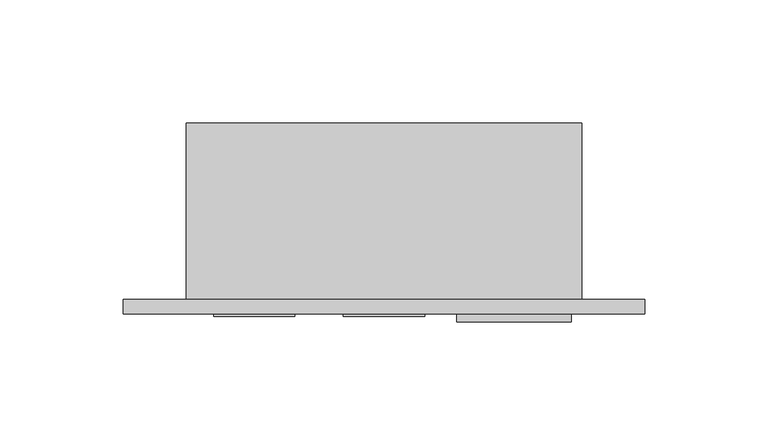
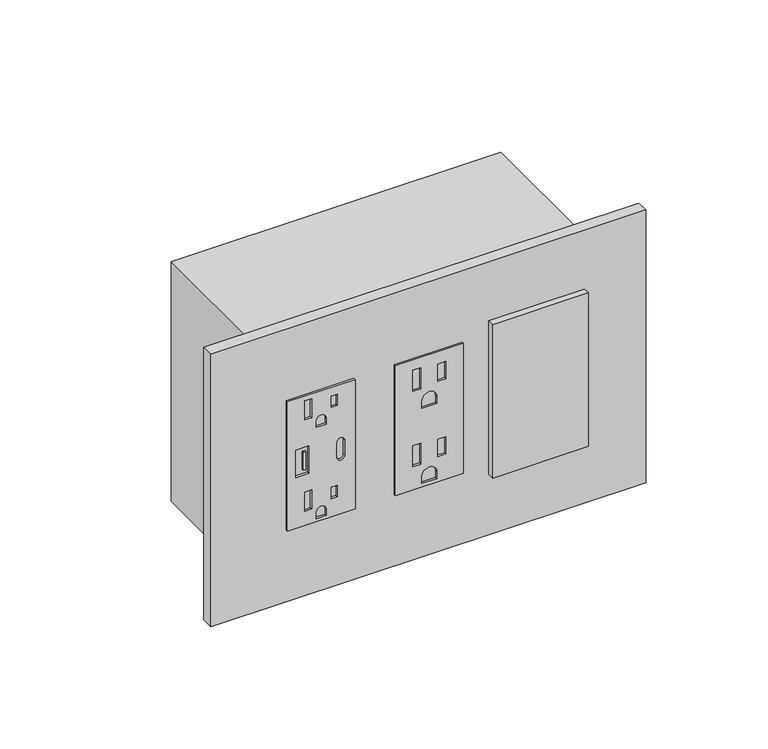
"""IFC4 building model written with IfcOpenShell, lengths in millimetres: proxy geometry, Electrical-Teknion-EPDMT_Vertical_Power_Data_Triple-R2019 : PD Vertical Module - Triple 15 Amp USB (A+C) & 15 Amp Standard."""

from ifc_helpers import new_model, si_unit, point, frame, frame_2d, origin, place, context, project, spatial, polyline, circle_curve, trimmed, segment, composite_curve, outline, extrude, source, transform, mapped, element, save


def electrical_fixtures_cf150507(model_context):
    return source(origin(), model_context, "Body", "SweptSolid", [
        extrude(outline(polyline([(490.474, 44.0944), (490.474, 11.0998), (423.926, 11.0998), (423.926, 44.0944), (490.474, 44.0944)]), holes=[polyline([(488.0356, 22.9616), (478.2080649, 22.9616), (478.2080649, 19.6342), (488.0356, 19.6342), (488.0356, 22.9616)]), polyline([(486.0301324, 35.41014), (480.2135324, 35.41014), (480.2135324, 32.4358), (486.0301324, 32.4358), (486.0301324, 35.41014)]), composite_curve([segment(polyline([(472.44, 30.0609), (472.44, 25.1333), (475.5388, 25.1333)]), True, "CONTINUOUS"), segment(trimmed(circle_curve(frame_2d((475.5388, 27.5971)), 2.4638), [point((475.5388, 25.1333))], [point((475.5388, 30.0609))], True, "CARTESIAN"), True, "CONTINUOUS"), segment(polyline([(475.5388, 30.0609), (472.44, 30.0609)]), True, "CONTINUOUS")], self_intersect=False), polyline([(441.0456, 22.9616), (431.2180649, 22.9616), (431.2180649, 19.6342), (441.0456, 19.6342), (441.0456, 22.9616)]), polyline([(439.0401324, 35.41014), (433.2235324, 35.41014), (433.2235324, 32.4358), (439.0401324, 32.4358), (439.0401324, 35.41014)]), composite_curve([segment(polyline([(425.45, 30.0609), (425.45, 25.1333), (428.5488, 25.1333)]), True, "CONTINUOUS"), segment(trimmed(circle_curve(frame_2d((428.5488, 27.5971)), 2.4638), [point((428.5488, 25.1333))], [point((428.5488, 30.0609))], True, "CARTESIAN"), True, "CONTINUOUS"), segment(polyline([(428.5488, 30.0609), (425.45, 30.0609)]), True, "CONTINUOUS")], self_intersect=False), polyline([(464.2485, 21.59), (450.1515, 21.59), (450.1515, 15.0876), (464.2485, 15.0876), (464.2485, 21.59)]), composite_curve([segment(trimmed(circle_curve(frame_2d((453.4154, 37.1348)), 1.905), [point((453.4154, 39.0398))], [point((453.4154, 35.2298))], True, "CARTESIAN"), True, "CONTINUOUS"), segment(polyline([(453.4154, 35.2298), (460.9846, 35.2298)]), True, "CONTINUOUS"), segment(trimmed(circle_curve(frame_2d((460.9846, 37.1348)), 1.905), [point((460.9846, 35.2298))], [point((460.9846, 39.0398))], True, "CARTESIAN"), True, "CONTINUOUS"), segment(polyline([(460.9846, 39.0398), (453.4154, 39.0398)]), True, "CONTINUOUS")], self_intersect=False)]), frame((0.0, -6.9294746, 0.0), z_axis=(0.0, 1.0, 0.0), x_axis=(0.0, 0.0, 1.0)), (0.0, 0.0, 1.0), 1.0366746),
        extrude(outline(polyline([(20.0803959, -6.9294746), (18.9613268, -6.9294746), (18.9613268, -5.8928), (20.0803959, -5.8928), (20.0803959, -6.9294746)])), frame((0.0, 0.0, 452.4998162), z_axis=(0.0, 0.0, 1.0), x_axis=(1.0, 0.0, 0.0)), (0.0, 0.0, 1.0), 9.2470447),
        extrude(outline(polyline([(490.6772, 96.7613), (490.6772, 63.7667), (423.7228, 63.7667), (423.7228, 96.7613), (490.6772, 96.7613)]), holes=[polyline([(485.2924, 76.1111), (474.472, 76.1111), (474.472, 72.2757), (485.2924, 72.2757), (485.2924, 76.1111)]), polyline([(484.3145, 88.2777), (475.4499, 88.2777), (475.4499, 84.4423), (484.3145, 84.4423), (484.3145, 88.2777)]), composite_curve([segment(polyline([(464.2866, 83.8962), (464.2866, 76.6318), (467.9188, 76.6318)]), True, "CONTINUOUS"), segment(trimmed(circle_curve(frame_2d((467.9188, 80.264)), 3.6322), [point((467.9188, 76.6318))], [point((467.9188, 83.8962))], True, "CARTESIAN"), True, "CONTINUOUS"), segment(polyline([(467.9188, 83.8962), (464.2866, 83.8962)]), True, "CONTINUOUS")], self_intersect=False), polyline([(446.5574, 76.1111), (435.737, 76.1111), (435.737, 72.2757), (446.5574, 72.2757), (446.5574, 76.1111)]), polyline([(445.5795, 88.2777), (436.7149, 88.2777), (436.7149, 84.4423), (445.5795, 84.4423), (445.5795, 88.2777)]), composite_curve([segment(polyline([(425.5516, 83.8962), (425.5516, 76.6318), (429.1838, 76.6318)]), True, "CONTINUOUS"), segment(trimmed(circle_curve(frame_2d((429.1838, 80.264)), 3.6322), [point((429.1838, 76.6318))], [point((429.1838, 83.8962))], True, "CARTESIAN"), True, "CONTINUOUS"), segment(polyline([(429.1838, 83.8962), (425.5516, 83.8962)]), True, "CONTINUOUS")], self_intersect=False)]), frame((0.0, -6.9294746, 0.0), z_axis=(0.0, 1.0, 0.0), x_axis=(0.0, 0.0, 1.0)), (0.0, 0.0, 1.0), 1.0366746),
        extrude(outline(polyline([(109.8296, -5.8928), (156.3624, -5.8928), (156.3624, -9.0678), (109.8296, -9.0678), (109.8296, -5.8928)])), frame((0.0, 0.0, 417.9922742), z_axis=(0.0, 0.0, 1.0), x_axis=(1.0, 0.0, 0.0)), (0.0, 0.0, 1.0), 79.0448),
        extrude(outline(polyline([(-25.6794, 0.0), (186.2074, 0.0), (186.2074, -5.8928), (-25.6794, -5.8928), (-25.6794, 0.0)])), frame((0.0, 0.0, 387.0198), z_axis=(0.0, 0.0, 1.0), x_axis=(1.0, 0.0, 0.0)), (0.0, 0.0, 1.0), 140.3604),
        extrude(outline(polyline([(160.528, 0.0), (0.0, 0.0), (0.0, 71.7296), (160.528, 71.7296), (160.528, 0.0)])), frame((0.0, 0.0, 395.4526), z_axis=(0.0, 0.0, 1.0), x_axis=(1.0, 0.0, 0.0)), (0.0, 0.0, 1.0), 123.4948),
    ])


if __name__ == "__main__":
    model = new_model("IFC4")
    model_context = context("Model", 3, world=origin())
    ifc_project = project(units=[si_unit("LENGTHUNIT", "METRE", prefix="MILLI")], contexts=[model_context])
    site = spatial("IfcSite", under=ifc_project)
    building = spatial("IfcBuilding", under=site)
    placement = place(None, origin())
    electrical_fixtures_shape = electrical_fixtures_cf150507(model_context)
    element("IfcBuildingElementProxy", 1, Name="Electrical-Teknion-EPDMT_Vertical_Power_Data_Triple-R2019 : PD Vertical Module - Triple 15 Amp USB (A+C) & 15 Amp Standard", ObjectType="Electrical-Teknion-EPDMT_Vertical_Power_Data_Triple-R2019 : PD Vertical Module - Triple 15 Amp USB (A+C) & 15 Amp Standard", at=placement, inside=building, context=model_context, shape_type="MappedRepresentation", body=[
        mapped(electrical_fixtures_shape, transform((0.0, 0.0, 0.0), x_axis=(1.0, 0.0, 0.0), y_axis=(0.0, 1.0, 0.0), z_axis=(0.0, 0.0, 1.0))),
    ])
    save(model, "model.ifc")
